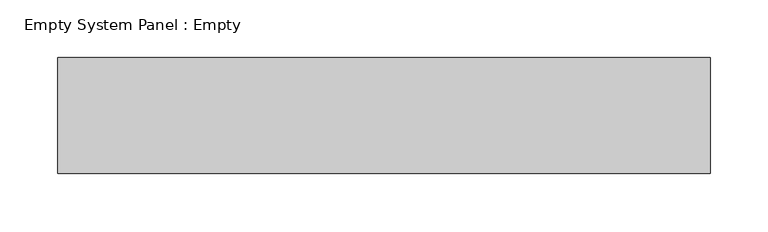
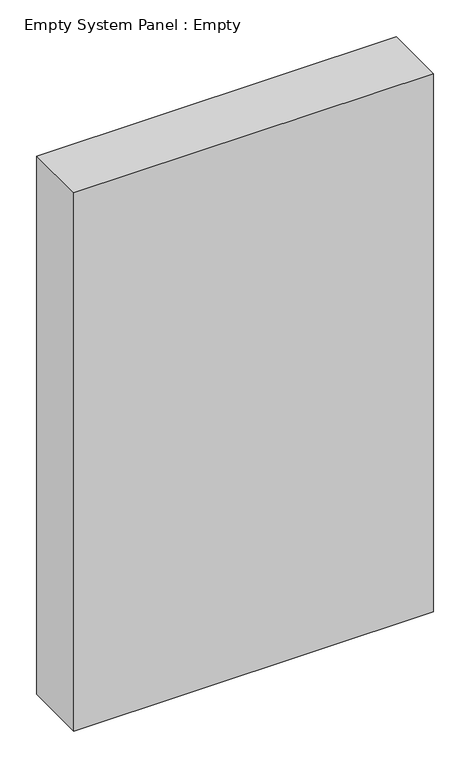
"""IFC4 building model written with IfcOpenShell, lengths in millimetres: plate geometry, Empty System Panel : Empty."""

from ifc_helpers import new_model, si_unit, origin, origin_with_axes, place, context, project, spatial, polyline, outline, extrude, source, transform, mapped, element, save


def empty_system_panel_empty_57776d45(model_context):
    return source(origin(), model_context, "Body", "SweptSolid", [
        extrude(outline(polyline([(281.25, -50.0), (-281.25, -50.0), (-281.25, 50.0), (281.25, 50.0), (281.25, -50.0)])), origin_with_axes(), (0.0, 0.0, 1.0), 890.0),
    ])


if __name__ == "__main__":
    model = new_model("IFC4")
    model_context = context("Model", 3, world=origin())
    ifc_project = project(units=[si_unit("LENGTHUNIT", "METRE", prefix="MILLI")], contexts=[model_context])
    site = spatial("IfcSite", under=ifc_project)
    building = spatial("IfcBuilding", under=site)
    placement = place(None, origin())
    empty_system_panel_empty_shape = empty_system_panel_empty_57776d45(model_context)
    element("IfcPlate", 1, ObjectType="Empty System Panel : Empty", at=placement, inside=building, context=model_context, shape_type="MappedRepresentation", body=[
        mapped(empty_system_panel_empty_shape, transform((0.0, 0.0, 0.0), x_axis=(1.0, 0.0, 0.0), y_axis=(0.0, 1.0, 0.0), z_axis=(0.0, 0.0, 1.0))),
    ])
    save(model, "model.ifc")
